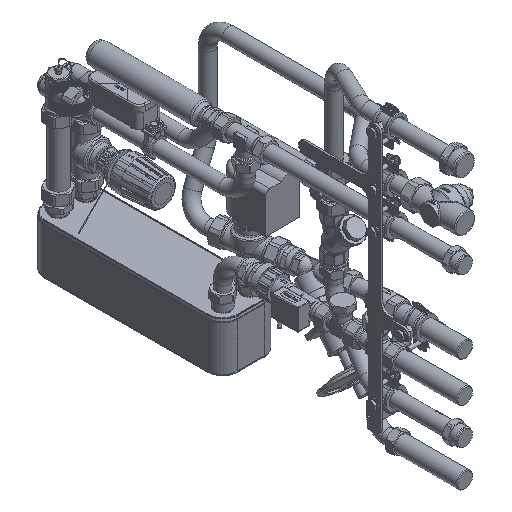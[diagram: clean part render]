
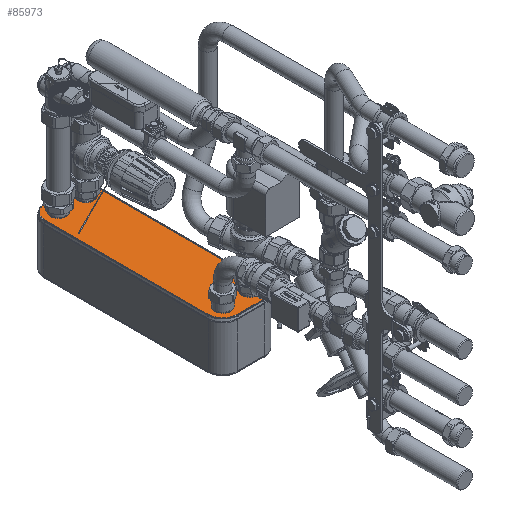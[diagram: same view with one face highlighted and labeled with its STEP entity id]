
A CAD part, isometric view. The second image highlights one B-rep face of the part: STEP entity #85973.
In plain terms, the highlighted planar face has unit normal (0, 0, 1).
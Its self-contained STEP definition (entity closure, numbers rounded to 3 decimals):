
#3745=PLANE('',#93579);
#13901=FACE_OUTER_BOUND('',#18819,.T.);
#18819=EDGE_LOOP('',(#80263,#80264,#80265,#80266,#80267,#80268,#80269,#80270));
#24478=CIRCLE('',#93580,24.339);
#24479=CIRCLE('',#93581,24.339);
#24480=CIRCLE('',#93582,24.339);
#24481=CIRCLE('',#93583,24.339);
#30089=LINE('',#235612,#35708);
#30090=LINE('',#235616,#35709);
#30091=LINE('',#235620,#35710);
#30092=LINE('',#235623,#35711);
#35708=VECTOR('',#114320,267.4);
#35709=VECTOR('',#114323,42.);
#35710=VECTOR('',#114326,267.4);
#35711=VECTOR('',#114329,42.);
#43665=VERTEX_POINT('',#235608);
#43666=VERTEX_POINT('',#235609);
#43667=VERTEX_POINT('',#235611);
#43668=VERTEX_POINT('',#235613);
#43669=VERTEX_POINT('',#235615);
#43670=VERTEX_POINT('',#235617);
#43671=VERTEX_POINT('',#235619);
#43672=VERTEX_POINT('',#235621);
#55867=EDGE_CURVE('',#43665,#43666,#24478,.T.);
#55868=EDGE_CURVE('',#43667,#43665,#30089,.T.);
#55869=EDGE_CURVE('',#43668,#43667,#24479,.T.);
#55870=EDGE_CURVE('',#43669,#43668,#30090,.T.);
#55871=EDGE_CURVE('',#43670,#43669,#24480,.T.);
#55872=EDGE_CURVE('',#43671,#43670,#30091,.T.);
#55873=EDGE_CURVE('',#43672,#43671,#24481,.T.);
#55874=EDGE_CURVE('',#43666,#43672,#30092,.T.);
#80263=ORIENTED_EDGE('',*,*,#55867,.F.);
#80264=ORIENTED_EDGE('',*,*,#55868,.F.);
#80265=ORIENTED_EDGE('',*,*,#55869,.F.);
#80266=ORIENTED_EDGE('',*,*,#55870,.F.);
#80267=ORIENTED_EDGE('',*,*,#55871,.F.);
#80268=ORIENTED_EDGE('',*,*,#55872,.F.);
#80269=ORIENTED_EDGE('',*,*,#55873,.F.);
#80270=ORIENTED_EDGE('',*,*,#55874,.F.);
#85973=ADVANCED_FACE('',(#13901),#3745,.T.);
#93579=AXIS2_PLACEMENT_3D('',#235607,#114316,#114317);
#93580=AXIS2_PLACEMENT_3D('',#235610,#114318,#114319);
#93581=AXIS2_PLACEMENT_3D('',#235614,#114321,#114322);
#93582=AXIS2_PLACEMENT_3D('',#235618,#114324,#114325);
#93583=AXIS2_PLACEMENT_3D('',#235622,#114327,#114328);
#114316=DIRECTION('center_axis',(0.,0.,
1.));
#114317=DIRECTION('ref_axis',(-1.,0.,0.));
#114318=DIRECTION('center_axis',(0.,0.,
-1.));
#114319=DIRECTION('ref_axis',(1.,0.,0.));
#114320=DIRECTION('',(0.,-1.,0.));
#114321=DIRECTION('center_axis',(0.,0.,
-1.));
#114322=DIRECTION('ref_axis',(0.,1.,0.));
#114323=DIRECTION('',(1.,0.,0.));
#114324=DIRECTION('center_axis',(0.,0.,
-1.));
#114325=DIRECTION('ref_axis',(-1.,0.,0.));
#114326=DIRECTION('',(0.,1.,0.));
#114327=DIRECTION('center_axis',(0.,0.,
-1.));
#114328=DIRECTION('ref_axis',(0.,-1.,0.));
#114329=DIRECTION('',(-1.,0.,0.));
#235607=CARTESIAN_POINT('Origin',(0.,0.,1.));
#235608=CARTESIAN_POINT('',(45.339,-133.7,1.));
#235609=CARTESIAN_POINT('',(21.,-158.039,1.));
#235610=CARTESIAN_POINT('Origin',(21.,-133.7,1.));
#235611=CARTESIAN_POINT('',(45.339,133.7,1.));
#235612=CARTESIAN_POINT('',(45.339,133.7,1.));
#235613=CARTESIAN_POINT('',(21.,158.039,1.));
#235614=CARTESIAN_POINT('Origin',(21.,133.7,1.));
#235615=CARTESIAN_POINT('',(-21.,158.039,1.));
#235616=CARTESIAN_POINT('',(-21.,158.039,1.));
#235617=CARTESIAN_POINT('',(-45.339,133.7,1.));
#235618=CARTESIAN_POINT('Origin',(-21.,133.7,1.));
#235619=CARTESIAN_POINT('',(-45.339,-133.7,1.));
#235620=CARTESIAN_POINT('',(-45.339,-133.7,1.));
#235621=CARTESIAN_POINT('',(-21.,-158.039,1.));
#235622=CARTESIAN_POINT('Origin',(-21.,-133.7,1.));
#235623=CARTESIAN_POINT('',(21.,-158.039,1.));
